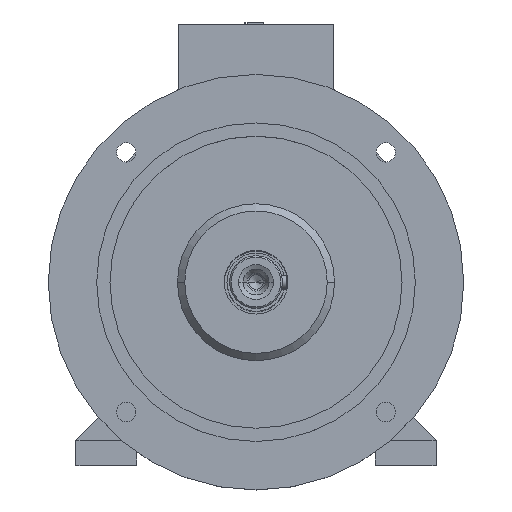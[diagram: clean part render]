
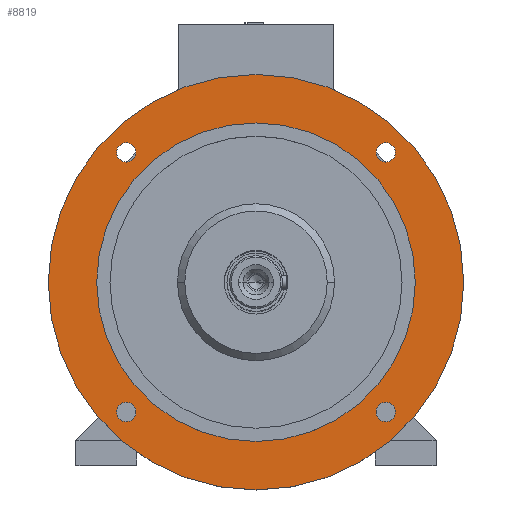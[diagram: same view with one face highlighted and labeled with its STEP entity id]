
A CAD part, top view. The second image highlights one B-rep face of the part: STEP entity #8819.
In plain terms, the highlighted planar face has unit normal (0, 0, 1).
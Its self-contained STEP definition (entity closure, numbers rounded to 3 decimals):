
#312 = CIRCLE ( 'NONE', #10190, 115. ) ;
#850 = DIRECTION ( 'NONE',  ( 0., 0., -1. ) ) ;
#892 = CIRCLE ( 'NONE', #3034, 150. ) ;
#1122 = ORIENTED_EDGE ( 'NONE', *, *, #13776, .F. ) ;
#1220 = AXIS2_PLACEMENT_3D ( 'NONE', #14410, #5012, #1446 ) ;
#1240 = AXIS2_PLACEMENT_3D ( 'NONE', #11022, #13553, #14819 ) ;
#1341 = DIRECTION ( 'NONE',  ( 0., 0., 1. ) ) ;
#1374 = CARTESIAN_POINT ( 'NONE',  ( 100.692, -93.692, 178. ) ) ;
#1397 = ORIENTED_EDGE ( 'NONE', *, *, #14615, .T. ) ;
#1446 = DIRECTION ( 'NONE',  ( -1., 0., 0. ) ) ;
#1603 = EDGE_CURVE ( 'NONE', #8962, #13506, #7887, .T. ) ;
#1812 = ORIENTED_EDGE ( 'NONE', *, *, #15322, .F. ) ;
#1921 = CARTESIAN_POINT ( 'NONE',  ( 150., 0., 178. ) ) ;
#2235 = CIRCLE ( 'NONE', #4264, 7. ) ;
#2245 = CIRCLE ( 'NONE', #4953, 7. ) ;
#2387 = DIRECTION ( 'NONE',  ( 0., 0., 1. ) ) ;
#2396 = EDGE_CURVE ( 'NONE', #13506, #8962, #892, .T. ) ;
#2412 = CIRCLE ( 'NONE', #13191, 115. ) ;
#2426 = CIRCLE ( 'NONE', #1220, 7. ) ;
#2443 = DIRECTION ( 'NONE',  ( 0., 0., 1. ) ) ;
#2444 = DIRECTION ( 'NONE',  ( 0., 1., 0. ) ) ;
#2499 = CARTESIAN_POINT ( 'NONE',  ( -93.692, -93.692, 178. ) ) ;
#2757 = ORIENTED_EDGE ( 'NONE', *, *, #10745, .F. ) ;
#2871 = FACE_BOUND ( 'NONE', #11788, .T. ) ;
#2896 = EDGE_CURVE ( 'NONE', #4936, #3836, #3925, .T. ) ;
#2942 = AXIS2_PLACEMENT_3D ( 'NONE', #8534, #1341, #9732 ) ;
#3034 = AXIS2_PLACEMENT_3D ( 'NONE', #6519, #13546, #12487 ) ;
#3232 = FACE_BOUND ( 'NONE', #5492, .T. ) ;
#3392 = CARTESIAN_POINT ( 'NONE',  ( 100.692, 93.692, 178. ) ) ;
#3400 = CARTESIAN_POINT ( 'NONE',  ( -93.692, 93.692, 178. ) ) ;
#3836 = VERTEX_POINT ( 'NONE', #12579 ) ;
#3849 = ORIENTED_EDGE ( 'NONE', *, *, #11561, .F. ) ;
#3925 = CIRCLE ( 'NONE', #11283, 7. ) ;
#4070 = VERTEX_POINT ( 'NONE', #1374 ) ;
#4201 = VERTEX_POINT ( 'NONE', #7965 ) ;
#4264 = AXIS2_PLACEMENT_3D ( 'NONE', #3400, #14234, #11869 ) ;
#4705 = DIRECTION ( 'NONE',  ( 0., 0., -1. ) ) ;
#4770 = DIRECTION ( 'NONE',  ( 0., 0., -1. ) ) ;
#4836 = CARTESIAN_POINT ( 'NONE',  ( 0., 150., 178. ) ) ;
#4936 = VERTEX_POINT ( 'NONE', #13055 ) ;
#4953 = AXIS2_PLACEMENT_3D ( 'NONE', #5854, #2443, #13197 ) ;
#4971 = CARTESIAN_POINT ( 'NONE',  ( -115., 0., 178. ) ) ;
#5012 = DIRECTION ( 'NONE',  ( 0., 0., 1. ) ) ;
#5314 = DIRECTION ( 'NONE',  ( 1., 0., 0. ) ) ;
#5492 = EDGE_LOOP ( 'NONE', ( #2757, #3849 ) ) ;
#5553 = ORIENTED_EDGE ( 'NONE', *, *, #11898, .F. ) ;
#5587 = CARTESIAN_POINT ( 'NONE',  ( 86.692, -93.692, 178. ) ) ;
#5598 = ORIENTED_EDGE ( 'NONE', *, *, #6867, .F. ) ;
#5854 = CARTESIAN_POINT ( 'NONE',  ( 93.692, 93.692, 178. ) ) ;
#5933 = CARTESIAN_POINT ( 'NONE',  ( -100.692, 93.692, 178. ) ) ;
#5976 = DIRECTION ( 'NONE',  ( -1., 0., 0. ) ) ;
#6108 = VERTEX_POINT ( 'NONE', #5587 ) ;
#6169 = CIRCLE ( 'NONE', #13901, 7. ) ;
#6445 = DIRECTION ( 'NONE',  ( 0., -1., 0. ) ) ;
#6471 = DIRECTION ( 'NONE',  ( 0., 0., 1. ) ) ;
#6488 = VERTEX_POINT ( 'NONE', #5933 ) ;
#6519 = CARTESIAN_POINT ( 'NONE',  ( 0., 0., 178. ) ) ;
#6644 = FACE_OUTER_BOUND ( 'NONE', #9298, .T. ) ;
#6867 = EDGE_CURVE ( 'NONE', #9592, #10910, #7648, .T. ) ;
#6959 = VERTEX_POINT ( 'NONE', #4971 ) ;
#7201 = DIRECTION ( 'NONE',  ( 0., 0., 1. ) ) ;
#7524 = VERTEX_POINT ( 'NONE', #9374 ) ;
#7648 = CIRCLE ( 'NONE', #7812, 7. ) ;
#7774 = CARTESIAN_POINT ( 'NONE',  ( 93.692, -93.692, 178. ) ) ;
#7812 = AXIS2_PLACEMENT_3D ( 'NONE', #9586, #2387, #2444 ) ;
#7885 = DIRECTION ( 'NONE',  ( -1., 0., 0. ) ) ;
#7887 = CIRCLE ( 'NONE', #12844, 150. ) ;
#7965 = CARTESIAN_POINT ( 'NONE',  ( -86.692, 93.692, 178. ) ) ;
#8534 = CARTESIAN_POINT ( 'NONE',  ( 93.692, -93.692, 178. ) ) ;
#8587 = CIRCLE ( 'NONE', #2942, 7. ) ;
#8819 = ADVANCED_FACE ( 'NONE', ( #12268, #3232, #11675, #2871, #9083, #6644 ), #13006, .T. ) ;
#8960 = AXIS2_PLACEMENT_3D ( 'NONE', #4836, #7201, #13228 ) ;
#8962 = VERTEX_POINT ( 'NONE', #13437 ) ;
#9083 = FACE_BOUND ( 'NONE', #13806, .T. ) ;
#9298 = EDGE_LOOP ( 'NONE', ( #14266, #15039 ) ) ;
#9374 = CARTESIAN_POINT ( 'NONE',  ( 115., 0., 178. ) ) ;
#9586 = CARTESIAN_POINT ( 'NONE',  ( 93.692, 93.692, 178. ) ) ;
#9592 = VERTEX_POINT ( 'NONE', #3392 ) ;
#9732 = DIRECTION ( 'NONE',  ( 1., 0., 0. ) ) ;
#10190 = AXIS2_PLACEMENT_3D ( 'NONE', #15089, #850, #7885 ) ;
#10222 = EDGE_LOOP ( 'NONE', ( #14058, #5553 ) ) ;
#10745 = EDGE_CURVE ( 'NONE', #4201, #6488, #2426, .T. ) ;
#10910 = VERTEX_POINT ( 'NONE', #14836 ) ;
#11022 = CARTESIAN_POINT ( 'NONE',  ( -93.692, -93.692, 178. ) ) ;
#11283 = AXIS2_PLACEMENT_3D ( 'NONE', #2499, #11995, #6445 ) ;
#11561 = EDGE_CURVE ( 'NONE', #6488, #4201, #2235, .T. ) ;
#11619 = EDGE_LOOP ( 'NONE', ( #5598, #1122 ) ) ;
#11675 = FACE_BOUND ( 'NONE', #11619, .T. ) ;
#11788 = EDGE_LOOP ( 'NONE', ( #13213, #1812 ) ) ;
#11869 = DIRECTION ( 'NONE',  ( -1., 0., 0. ) ) ;
#11898 = EDGE_CURVE ( 'NONE', #3836, #4936, #12374, .T. ) ;
#11995 = DIRECTION ( 'NONE',  ( 0., 0., 1. ) ) ;
#12042 = EDGE_CURVE ( 'NONE', #4070, #6108, #6169, .T. ) ;
#12256 = ORIENTED_EDGE ( 'NONE', *, *, #15584, .T. ) ;
#12268 = FACE_BOUND ( 'NONE', #10222, .T. ) ;
#12374 = CIRCLE ( 'NONE', #1240, 7. ) ;
#12487 = DIRECTION ( 'NONE',  ( -1., 0., 0. ) ) ;
#12579 = CARTESIAN_POINT ( 'NONE',  ( -100.692, -93.692, 178. ) ) ;
#12844 = AXIS2_PLACEMENT_3D ( 'NONE', #14259, #4705, #15434 ) ;
#13006 = PLANE ( 'NONE',  #8960 ) ;
#13055 = CARTESIAN_POINT ( 'NONE',  ( -86.692, -93.692, 178. ) ) ;
#13191 = AXIS2_PLACEMENT_3D ( 'NONE', #14431, #4770, #5976 ) ;
#13197 = DIRECTION ( 'NONE',  ( 0., 1., 0. ) ) ;
#13213 = ORIENTED_EDGE ( 'NONE', *, *, #12042, .F. ) ;
#13228 = DIRECTION ( 'NONE',  ( 1., 0., 0. ) ) ;
#13437 = CARTESIAN_POINT ( 'NONE',  ( -150., 0., 178. ) ) ;
#13506 = VERTEX_POINT ( 'NONE', #1921 ) ;
#13546 = DIRECTION ( 'NONE',  ( 0., 0., -1. ) ) ;
#13553 = DIRECTION ( 'NONE',  ( 0., 0., 1. ) ) ;
#13776 = EDGE_CURVE ( 'NONE', #10910, #9592, #2245, .T. ) ;
#13806 = EDGE_LOOP ( 'NONE', ( #12256, #1397 ) ) ;
#13901 = AXIS2_PLACEMENT_3D ( 'NONE', #7774, #6471, #5314 ) ;
#14058 = ORIENTED_EDGE ( 'NONE', *, *, #2896, .F. ) ;
#14234 = DIRECTION ( 'NONE',  ( 0., 0., 1. ) ) ;
#14259 = CARTESIAN_POINT ( 'NONE',  ( 0., 0., 178. ) ) ;
#14266 = ORIENTED_EDGE ( 'NONE', *, *, #1603, .F. ) ;
#14410 = CARTESIAN_POINT ( 'NONE',  ( -93.692, 93.692, 178. ) ) ;
#14431 = CARTESIAN_POINT ( 'NONE',  ( 0., 0., 178. ) ) ;
#14615 = EDGE_CURVE ( 'NONE', #7524, #6959, #2412, .T. ) ;
#14819 = DIRECTION ( 'NONE',  ( 0., -1., 0. ) ) ;
#14836 = CARTESIAN_POINT ( 'NONE',  ( 86.692, 93.692, 178. ) ) ;
#15039 = ORIENTED_EDGE ( 'NONE', *, *, #2396, .F. ) ;
#15089 = CARTESIAN_POINT ( 'NONE',  ( 0., 0., 178. ) ) ;
#15322 = EDGE_CURVE ( 'NONE', #6108, #4070, #8587, .T. ) ;
#15434 = DIRECTION ( 'NONE',  ( -1., 0., 0. ) ) ;
#15584 = EDGE_CURVE ( 'NONE', #6959, #7524, #312, .T. ) ;
